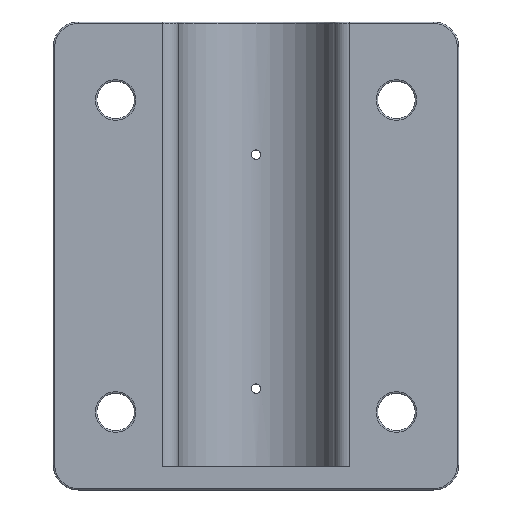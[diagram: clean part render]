
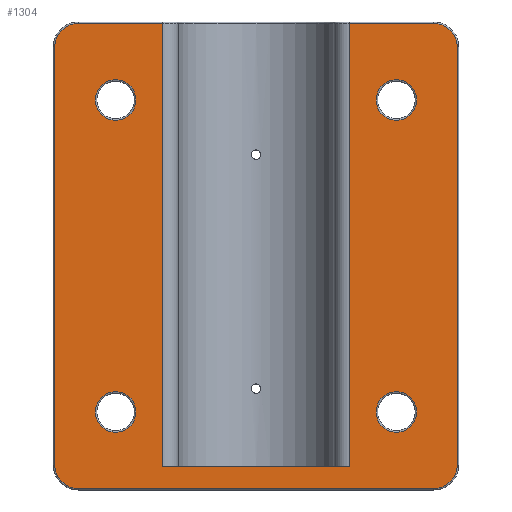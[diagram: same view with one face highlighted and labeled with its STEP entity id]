
A CAD part, front view. The second image highlights one B-rep face of the part: STEP entity #1304.
In plain terms, the highlighted planar face has unit normal (0, -1, 0).
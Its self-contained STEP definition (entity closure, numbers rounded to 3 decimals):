
#17=FACE_BOUND('',#283,.T.);
#18=FACE_BOUND('',#284,.T.);
#19=FACE_BOUND('',#285,.T.);
#20=FACE_BOUND('',#286,.T.);
#29=PLANE('',#1416);
#43=CIRCLE('',#1412,6.5);
#47=CIRCLE('',#1417,7.5);
#48=CIRCLE('',#1418,7.5);
#49=CIRCLE('',#1419,7.5);
#50=CIRCLE('',#1420,7.5);
#51=CIRCLE('',#1421,6.5);
#52=CIRCLE('',#1422,6.5);
#53=CIRCLE('',#1423,6.5);
#197=FACE_OUTER_BOUND('',#282,.T.);
#282=EDGE_LOOP('',(#870,#871,#872,#873,#874,#875,#876,#877,#878,#879,#880,
#881));
#283=EDGE_LOOP('',(#882));
#284=EDGE_LOOP('',(#883));
#285=EDGE_LOOP('',(#884));
#286=EDGE_LOOP('',(#885));
#378=LINE('',#2269,#453);
#379=LINE('',#2271,#454);
#380=LINE('',#2273,#455);
#381=LINE('',#2275,#456);
#382=LINE('',#2277,#457);
#383=LINE('',#2281,#458);
#384=LINE('',#2285,#459);
#385=LINE('',#2289,#460);
#453=VECTOR('',#1636,10.);
#454=VECTOR('',#1637,10.);
#455=VECTOR('',#1638,10.);
#456=VECTOR('',#1639,10.);
#457=VECTOR('',#1640,10.);
#458=VECTOR('',#1643,10.);
#459=VECTOR('',#1646,10.);
#460=VECTOR('',#1649,10.);
#538=VERTEX_POINT('',#2259);
#541=VERTEX_POINT('',#2267);
#542=VERTEX_POINT('',#2268);
#543=VERTEX_POINT('',#2270);
#544=VERTEX_POINT('',#2272);
#545=VERTEX_POINT('',#2274);
#546=VERTEX_POINT('',#2276);
#547=VERTEX_POINT('',#2278);
#548=VERTEX_POINT('',#2280);
#549=VERTEX_POINT('',#2282);
#550=VERTEX_POINT('',#2284);
#551=VERTEX_POINT('',#2286);
#552=VERTEX_POINT('',#2288);
#553=VERTEX_POINT('',#2291);
#554=VERTEX_POINT('',#2293);
#555=VERTEX_POINT('',#2295);
#660=EDGE_CURVE('',#538,#538,#43,.T.);
#664=EDGE_CURVE('',#541,#542,#378,.T.);
#665=EDGE_CURVE('',#543,#541,#379,.T.);
#666=EDGE_CURVE('',#543,#544,#380,.T.);
#667=EDGE_CURVE('',#544,#545,#381,.T.);
#668=EDGE_CURVE('',#546,#545,#382,.T.);
#669=EDGE_CURVE('',#547,#546,#47,.T.);
#670=EDGE_CURVE('',#548,#547,#383,.T.);
#671=EDGE_CURVE('',#549,#548,#48,.T.);
#672=EDGE_CURVE('',#550,#549,#384,.T.);
#673=EDGE_CURVE('',#551,#550,#49,.T.);
#674=EDGE_CURVE('',#552,#551,#385,.T.);
#675=EDGE_CURVE('',#542,#552,#50,.T.);
#676=EDGE_CURVE('',#553,#553,#51,.T.);
#677=EDGE_CURVE('',#554,#554,#52,.T.);
#678=EDGE_CURVE('',#555,#555,#53,.T.);
#870=ORIENTED_EDGE('',*,*,#664,.F.);
#871=ORIENTED_EDGE('',*,*,#665,.F.);
#872=ORIENTED_EDGE('',*,*,#666,.T.);
#873=ORIENTED_EDGE('',*,*,#667,.T.);
#874=ORIENTED_EDGE('',*,*,#668,.F.);
#875=ORIENTED_EDGE('',*,*,#669,.F.);
#876=ORIENTED_EDGE('',*,*,#670,.F.);
#877=ORIENTED_EDGE('',*,*,#671,.F.);
#878=ORIENTED_EDGE('',*,*,#672,.F.);
#879=ORIENTED_EDGE('',*,*,#673,.F.);
#880=ORIENTED_EDGE('',*,*,#674,.F.);
#881=ORIENTED_EDGE('',*,*,#675,.F.);
#882=ORIENTED_EDGE('',*,*,#676,.F.);
#883=ORIENTED_EDGE('',*,*,#677,.F.);
#884=ORIENTED_EDGE('',*,*,#678,.F.);
#885=ORIENTED_EDGE('',*,*,#660,.F.);
#1304=ADVANCED_FACE('',(#197,#17,#18,#19,#20),#29,.T.);
#1412=AXIS2_PLACEMENT_3D('',#2260,#1626,#1627);
#1416=AXIS2_PLACEMENT_3D('',#2266,#1634,#1635);
#1417=AXIS2_PLACEMENT_3D('',#2279,#1641,#1642);
#1418=AXIS2_PLACEMENT_3D('',#2283,#1644,#1645);
#1419=AXIS2_PLACEMENT_3D('',#2287,#1647,#1648);
#1420=AXIS2_PLACEMENT_3D('',#2290,#1650,#1651);
#1421=AXIS2_PLACEMENT_3D('',#2292,#1652,#1653);
#1422=AXIS2_PLACEMENT_3D('',#2294,#1654,#1655);
#1423=AXIS2_PLACEMENT_3D('',#2296,#1656,#1657);
#1626=DIRECTION('center_axis',(0.,-1.,0.));
#1627=DIRECTION('ref_axis',(-1.,0.,0.));
#1634=DIRECTION('center_axis',(0.,-1.,0.));
#1635=DIRECTION('ref_axis',(1.,0.,0.));
#1636=DIRECTION('',(1.,0.,0.));
#1637=DIRECTION('',(0.,0.,1.));
#1638=DIRECTION('',(-1.,0.,0.));
#1639=DIRECTION('',(0.,0.,1.));
#1640=DIRECTION('',(1.,0.,0.));
#1641=DIRECTION('center_axis',(0.,1.,0.));
#1642=DIRECTION('ref_axis',(-0.707,0.,0.707));
#1643=DIRECTION('',(0.,0.,1.));
#1644=DIRECTION('center_axis',(0.,1.,0.));
#1645=DIRECTION('ref_axis',(-0.707,0.,-0.707));
#1646=DIRECTION('',(-1.,0.,0.));
#1647=DIRECTION('center_axis',(0.,1.,0.));
#1648=DIRECTION('ref_axis',(0.707,0.,-0.707));
#1649=DIRECTION('',(0.,0.,-1.));
#1650=DIRECTION('center_axis',(0.,1.,0.));
#1651=DIRECTION('ref_axis',(0.707,0.,0.707));
#1652=DIRECTION('center_axis',(0.,-1.,0.));
#1653=DIRECTION('ref_axis',(-1.,0.,0.));
#1654=DIRECTION('center_axis',(0.,-1.,0.));
#1655=DIRECTION('ref_axis',(-1.,0.,0.));
#1656=DIRECTION('center_axis',(0.,-1.,0.));
#1657=DIRECTION('ref_axis',(-1.,0.,0.));
#2259=CARTESIAN_POINT('',(45.,-25.,-56.5));
#2260=CARTESIAN_POINT('Origin',(45.,-25.,-50.));
#2266=CARTESIAN_POINT('Origin',(-65.,-25.,0.));
#2267=CARTESIAN_POINT('',(30.,-25.,74.5));
#2268=CARTESIAN_POINT('',(57.,-25.,74.5));
#2269=CARTESIAN_POINT('',(-32.5,-25.,74.5));
#2270=CARTESIAN_POINT('',(30.,-25.,-67.5));
#2271=CARTESIAN_POINT('',(30.,-25.,75.));
#2272=CARTESIAN_POINT('',(-30.,-25.,-67.5));
#2273=CARTESIAN_POINT('',(-32.5,-25.,-67.5));
#2274=CARTESIAN_POINT('',(-30.,-25.,74.5));
#2275=CARTESIAN_POINT('',(-30.,-25.,75.));
#2276=CARTESIAN_POINT('',(-57.,-25.,74.5));
#2277=CARTESIAN_POINT('',(-32.5,-25.,74.5));
#2278=CARTESIAN_POINT('',(-64.5,-25.,67.));
#2279=CARTESIAN_POINT('Origin',(-57.,-25.,67.));
#2280=CARTESIAN_POINT('',(-64.5,-25.,-67.));
#2281=CARTESIAN_POINT('',(-64.5,-25.,0.));
#2282=CARTESIAN_POINT('',(-57.,-25.,-74.5));
#2283=CARTESIAN_POINT('Origin',(-57.,-25.,-67.));
#2284=CARTESIAN_POINT('',(57.,-25.,-74.5));
#2285=CARTESIAN_POINT('',(-32.5,-25.,-74.5));
#2286=CARTESIAN_POINT('',(64.5,-25.,-67.));
#2287=CARTESIAN_POINT('Origin',(57.,-25.,-67.));
#2288=CARTESIAN_POINT('',(64.5,-25.,67.));
#2289=CARTESIAN_POINT('',(64.5,-25.,0.));
#2290=CARTESIAN_POINT('Origin',(57.,-25.,67.));
#2291=CARTESIAN_POINT('',(-45.,-25.,-56.5));
#2292=CARTESIAN_POINT('Origin',(-45.,-25.,-50.));
#2293=CARTESIAN_POINT('',(45.,-25.,43.5));
#2294=CARTESIAN_POINT('Origin',(45.,-25.,50.));
#2295=CARTESIAN_POINT('',(-45.,-25.,43.5));
#2296=CARTESIAN_POINT('Origin',(-45.,-25.,50.));
